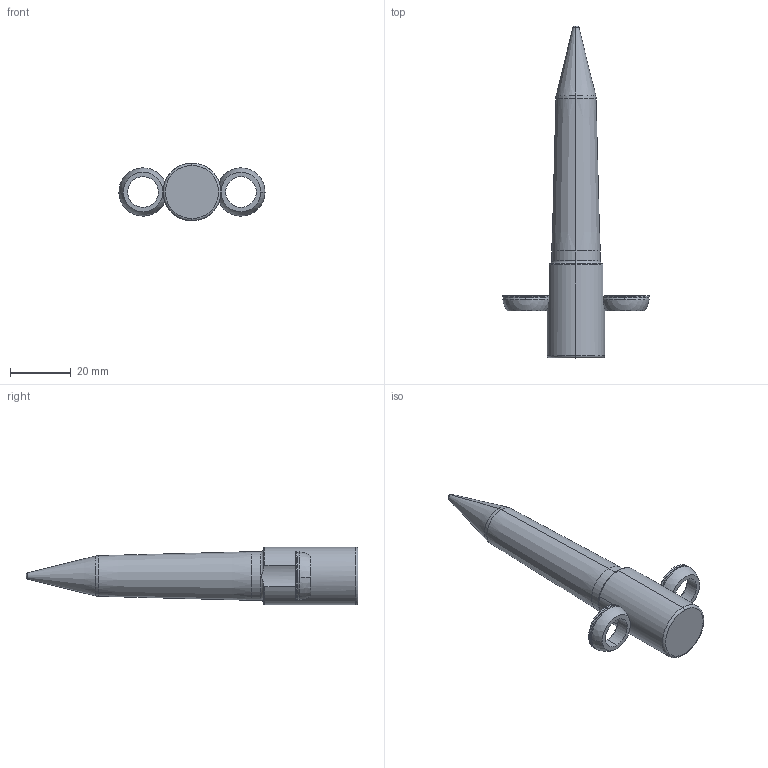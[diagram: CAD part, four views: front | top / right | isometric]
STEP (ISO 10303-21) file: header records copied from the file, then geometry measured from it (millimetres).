
FILE_DESCRIPTION (( 'STEP AP214' ), '1' );
FILE_NAME ('PA-T-16mm-3.2mm-50mm-3-A-F2.STEP', '2019-05-08T18:10:57', ( '' ), ( '' ), 'SwSTEP 2.0', 'SolidWorks 2017', '' );
FILE_SCHEMA (( 'AUTOMOTIVE_DESIGN' ));
Length unit declared in the file: inch
Products named in the file (3): SLPilot-PA-T-M_PA-T-16-3.2-50-3-A-F2; PA-T-16mm-3.2mm-50mm-3-A-F2; SLRadiusWasher_RadiusWasher-M
Assembly tree (3 placements, depth 2):
  PA-T-16mm-3.2mm-50mm-3-A-F2
    SLRadiusWasher_RadiusWasher-M  x2
    SLPilot-PA-T-M_PA-T-16-3.2-50-3-A-F2
Bounding box: 48.06 x 109.18 x 19 mm (x, y, z)
Volume: 20255.9 mm3; surface area: 6418.3 mm2
Topology: 3 solids, 3 shells, 61 faces, 136 edges, 81 vertices
Faces by surface type: torus 19, cylinder 18, cone 8, sphere 8, plane 8
Entity records: 1565 total; most frequent: CARTESIAN_POINT 344, DIRECTION 266, ORIENTED_EDGE 204, AXIS2_PLACEMENT_3D 123, EDGE_CURVE 102, CIRCLE 72, VERTEX_POINT 61, EDGE_LOOP 47
